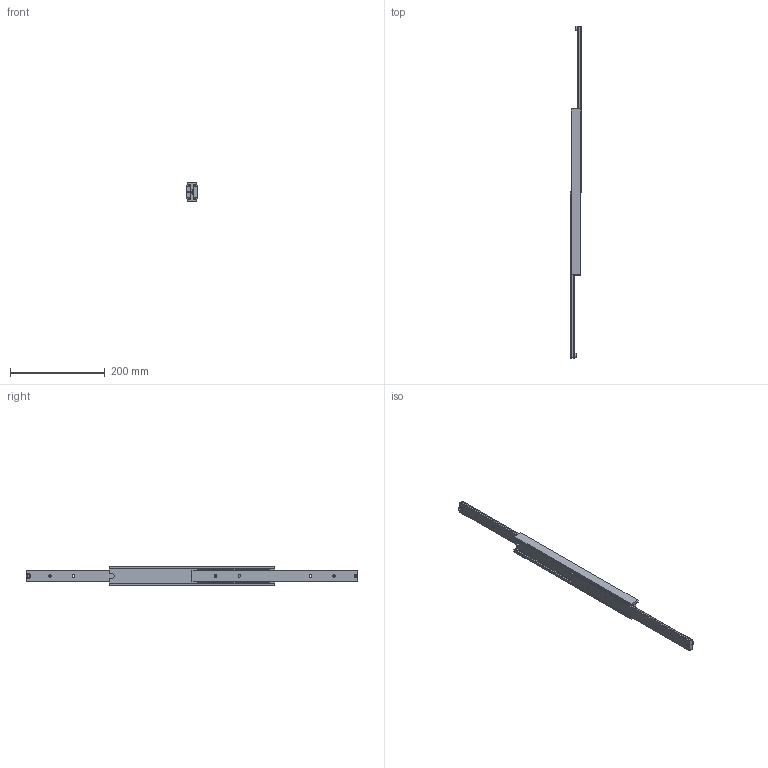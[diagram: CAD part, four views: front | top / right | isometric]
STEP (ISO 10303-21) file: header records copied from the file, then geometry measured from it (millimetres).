
FILE_DESCRIPTION(/* description */ (''),/* implementation_level */ '2;1');
FILE_NAME(/* name */ 'D:\Zeichnungen Schienen Komplett\MX-DTP40\MX-DTP40.035\MX-DTP40.035_ausgefahren.step',/* time_stamp */ '2022-07-14T16:41:52+02:00',/* author */ ('zmile'),/* organization */ (''),/* preprocessor_version */ 'ST-DEVELOPER v16.13',/* originating_system */ 'AutoCAD Mechanical',/* authorisation */ '');
FILE_SCHEMA (('AUTOMOTIVE_DESIGN { 1 0 10303 214 3 1 1 }'));
Products named in the file (1): Product
Bounding box: 24 x 700 x 40 mm (x, y, z)
Volume: 263492.3 mm3; surface area: 132520.1 mm2
Topology: 31 solids, 31 shells, 200 faces, 534 edges, 352 vertices
Faces by surface type: plane 84, cylinder 48, bspline 38, sphere 24, torus 6
Full cylindrical faces by diameter (mm): 6 x24, 10 x2
Entity records: 70977 total; most frequent: CARTESIAN_POINT 66391, ORIENTED_EDGE 904, DIRECTION 796, EDGE_CURVE 452, VERTEX_POINT 350, EDGE_LOOP 304, AXIS2_PLACEMENT_3D 293, LINE 210
